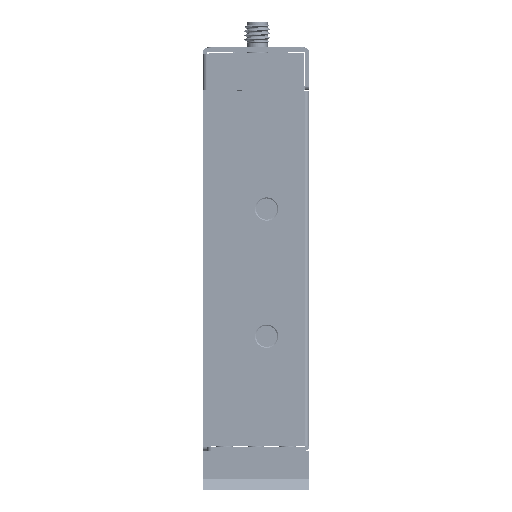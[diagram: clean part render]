
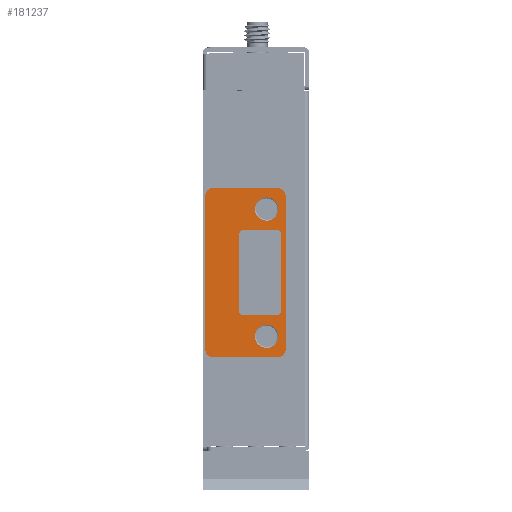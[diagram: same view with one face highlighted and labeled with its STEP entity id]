
A CAD part, front view. The second image highlights one B-rep face of the part: STEP entity #181237.
In plain terms, the highlighted planar face has unit normal (0, -1, 0) as drawn and (0, 0, 1) by its records, which use the part's own axes.
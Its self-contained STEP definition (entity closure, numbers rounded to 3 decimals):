
#3921 = CARTESIAN_POINT ( 'NONE',  ( 2., 17., 0.8 ) ) ;
#5923 = ORIENTED_EDGE ( 'NONE', *, *, #96800, .T. ) ;
#10271 = VERTEX_POINT ( 'NONE', #277974 ) ;
#12855 = VECTOR ( 'NONE', #503262, 1000. ) ;
#15751 = CARTESIAN_POINT ( 'NONE',  ( 2., 2., 0.8 ) ) ;
#21655 = EDGE_CURVE ( 'NONE', #241519, #412708, #91879, .T. ) ;
#30548 = CARTESIAN_POINT ( 'NONE',  ( 0., 17., 0.8 ) ) ;
#38473 = AXIS2_PLACEMENT_3D ( 'NONE', #109376, #221327, #762870 ) ;
#38564 = LINE ( 'NONE', #104321, #482618 ) ;
#42096 = EDGE_CURVE ( 'NONE', #348112, #49644, #753243, .T. ) ;
#42754 = LINE ( 'NONE', #561332, #12855 ) ;
#49644 = VERTEX_POINT ( 'NONE', #91690 ) ;
#63417 = CIRCLE ( 'NONE', #38473, 2.75 ) ;
#67040 = AXIS2_PLACEMENT_3D ( 'NONE', #236910, #643361, #167642 ) ;
#67352 = EDGE_CURVE ( 'NONE', #746354, #241519, #212280, .T. ) ;
#83272 = EDGE_CURVE ( 'NONE', #658382, #269282, #247924, .T. ) ;
#86596 = EDGE_LOOP ( 'NONE', ( #491093, #674388 ) ) ;
#91690 = CARTESIAN_POINT ( 'NONE',  ( 37.75, 14.5, 0.8 ) ) ;
#91879 = CIRCLE ( 'NONE', #67040, 2. ) ;
#96374 = CARTESIAN_POINT ( 'NONE',  ( 40., 2., 0.8 ) ) ;
#96800 = EDGE_CURVE ( 'NONE', #412708, #441033, #42754, .T. ) ;
#98884 = DIRECTION ( 'NONE',  ( 0., 0., 1. ) ) ;
#104321 = CARTESIAN_POINT ( 'NONE',  ( 2., 0., 0.8 ) ) ;
#109376 = CARTESIAN_POINT ( 'NONE',  ( 5., 14.5, 0.8 ) ) ;
#111841 = CARTESIAN_POINT ( 'NONE',  ( 2., 2., 0.8 ) ) ;
#132068 = CARTESIAN_POINT ( 'NONE',  ( 32.25, 14.5, 0.8 ) ) ;
#136362 = EDGE_CURVE ( 'NONE', #190174, #302767, #473957, .T. ) ;
#163789 = EDGE_CURVE ( 'NONE', #49644, #348112, #628808, .T. ) ;
#167642 = DIRECTION ( 'NONE',  ( -1., 0., 0. ) ) ;
#181237 = ADVANCED_FACE ( 'NONE', ( #757651, #227596, #699724 ), #289447, .F. ) ;
#181654 = CIRCLE ( 'NONE', #230584, 2. ) ;
#186987 = CARTESIAN_POINT ( 'NONE',  ( 38., 19., 0.8 ) ) ;
#190174 = VERTEX_POINT ( 'NONE', #728880 ) ;
#212280 = LINE ( 'NONE', #96374, #708842 ) ;
#219896 = ORIENTED_EDGE ( 'NONE', *, *, #163789, .F. ) ;
#221327 = DIRECTION ( 'NONE',  ( 0., 0., 1. ) ) ;
#221964 = CARTESIAN_POINT ( 'NONE',  ( 0., 2., 0.8 ) ) ;
#224791 = DIRECTION ( 'NONE',  ( 1., 0., 0. ) ) ;
#227596 = FACE_BOUND ( 'NONE', #258503, .T. ) ;
#228417 = AXIS2_PLACEMENT_3D ( 'NONE', #111841, #347586, #583675 ) ;
#230584 = AXIS2_PLACEMENT_3D ( 'NONE', #391445, #638857, #224791 ) ;
#236146 = ORIENTED_EDGE ( 'NONE', *, *, #456396, .T. ) ;
#236910 = CARTESIAN_POINT ( 'NONE',  ( 38., 17., 0.8 ) ) ;
#239259 = AXIS2_PLACEMENT_3D ( 'NONE', #3921, #475790, #247341 ) ;
#241519 = VERTEX_POINT ( 'NONE', #673093 ) ;
#247341 = DIRECTION ( 'NONE',  ( -1., 0., 0. ) ) ;
#247924 = CIRCLE ( 'NONE', #272168, 2.75 ) ;
#252842 = DIRECTION ( 'NONE',  ( 1., 0., 0. ) ) ;
#258252 = EDGE_CURVE ( 'NONE', #269282, #658382, #63417, .T. ) ;
#258503 = EDGE_LOOP ( 'NONE', ( #219896, #328083 ) ) ;
#258637 = CARTESIAN_POINT ( 'NONE',  ( 7.75, 14.5, 0.8 ) ) ;
#269282 = VERTEX_POINT ( 'NONE', #565715 ) ;
#272168 = AXIS2_PLACEMENT_3D ( 'NONE', #736361, #380574, #252842 ) ;
#277974 = CARTESIAN_POINT ( 'NONE',  ( 38., 0., 0.8 ) ) ;
#289447 = PLANE ( 'NONE',  #228417 ) ;
#300011 = ORIENTED_EDGE ( 'NONE', *, *, #750407, .T. ) ;
#302767 = VERTEX_POINT ( 'NONE', #755679 ) ;
#317174 = DIRECTION ( 'NONE',  ( 0., 0., 1. ) ) ;
#328083 = ORIENTED_EDGE ( 'NONE', *, *, #42096, .F. ) ;
#330309 = VERTEX_POINT ( 'NONE', #30548 ) ;
#343925 = CARTESIAN_POINT ( 'NONE',  ( 2., 19., 0.8 ) ) ;
#347586 = DIRECTION ( 'NONE',  ( 0., 0., -1. ) ) ;
#348112 = VERTEX_POINT ( 'NONE', #132068 ) ;
#380574 = DIRECTION ( 'NONE',  ( 0., 0., 1. ) ) ;
#382430 = DIRECTION ( 'NONE',  ( 1., 0., 0. ) ) ;
#391445 = CARTESIAN_POINT ( 'NONE',  ( 38., 2., 0.8 ) ) ;
#396698 = DIRECTION ( 'NONE',  ( 1., 0., 0. ) ) ;
#400094 = DIRECTION ( 'NONE',  ( 0., -1., 0. ) ) ;
#405154 = EDGE_CURVE ( 'NONE', #302767, #10271, #38564, .T. ) ;
#412708 = VERTEX_POINT ( 'NONE', #186987 ) ;
#418735 = ORIENTED_EDGE ( 'NONE', *, *, #694926, .T. ) ;
#437386 = ORIENTED_EDGE ( 'NONE', *, *, #136362, .T. ) ;
#441033 = VERTEX_POINT ( 'NONE', #343925 ) ;
#456396 = EDGE_CURVE ( 'NONE', #330309, #190174, #516102, .T. ) ;
#473957 = CIRCLE ( 'NONE', #621919, 2. ) ;
#475790 = DIRECTION ( 'NONE',  ( 0., 0., 1. ) ) ;
#482618 = VECTOR ( 'NONE', #622778, 1000. ) ;
#491093 = ORIENTED_EDGE ( 'NONE', *, *, #83272, .F. ) ;
#498743 = DIRECTION ( 'NONE',  ( 0., 1., 0. ) ) ;
#503262 = DIRECTION ( 'NONE',  ( -1., 0., 0. ) ) ;
#511266 = ORIENTED_EDGE ( 'NONE', *, *, #21655, .T. ) ;
#516102 = LINE ( 'NONE', #221964, #587104 ) ;
#520319 = CARTESIAN_POINT ( 'NONE',  ( 35., 14.5, 0.8 ) ) ;
#537140 = EDGE_LOOP ( 'NONE', ( #437386, #615601, #418735, #595789, #511266, #5923, #300011, #236146 ) ) ;
#558276 = CARTESIAN_POINT ( 'NONE',  ( 40., 2., 0.8 ) ) ;
#561332 = CARTESIAN_POINT ( 'NONE',  ( 2., 19., 0.8 ) ) ;
#565715 = CARTESIAN_POINT ( 'NONE',  ( 2.25, 14.5, 0.8 ) ) ;
#578439 = DIRECTION ( 'NONE',  ( 0., 0., 1. ) ) ;
#583675 = DIRECTION ( 'NONE',  ( 0., -1., 0. ) ) ;
#587104 = VECTOR ( 'NONE', #400094, 1000. ) ;
#595789 = ORIENTED_EDGE ( 'NONE', *, *, #67352, .T. ) ;
#615601 = ORIENTED_EDGE ( 'NONE', *, *, #405154, .T. ) ;
#621919 = AXIS2_PLACEMENT_3D ( 'NONE', #15751, #317174, #658085 ) ;
#622778 = DIRECTION ( 'NONE',  ( 1., 0., 0. ) ) ;
#628808 = CIRCLE ( 'NONE', #653765, 2.75 ) ;
#638857 = DIRECTION ( 'NONE',  ( 0., 0., 1. ) ) ;
#643361 = DIRECTION ( 'NONE',  ( 0., 0., 1. ) ) ;
#653765 = AXIS2_PLACEMENT_3D ( 'NONE', #520319, #578439, #382430 ) ;
#658085 = DIRECTION ( 'NONE',  ( -1., 0., 0. ) ) ;
#658382 = VERTEX_POINT ( 'NONE', #258637 ) ;
#666700 = AXIS2_PLACEMENT_3D ( 'NONE', #756245, #98884, #396698 ) ;
#673093 = CARTESIAN_POINT ( 'NONE',  ( 40., 17., 0.8 ) ) ;
#674388 = ORIENTED_EDGE ( 'NONE', *, *, #258252, .F. ) ;
#694926 = EDGE_CURVE ( 'NONE', #10271, #746354, #181654, .T. ) ;
#699724 = FACE_OUTER_BOUND ( 'NONE', #537140, .T. ) ;
#708842 = VECTOR ( 'NONE', #498743, 1000. ) ;
#728880 = CARTESIAN_POINT ( 'NONE',  ( 0., 2., 0.8 ) ) ;
#736361 = CARTESIAN_POINT ( 'NONE',  ( 5., 14.5, 0.8 ) ) ;
#745722 = CIRCLE ( 'NONE', #239259, 2. ) ;
#746354 = VERTEX_POINT ( 'NONE', #558276 ) ;
#750407 = EDGE_CURVE ( 'NONE', #441033, #330309, #745722, .T. ) ;
#753243 = CIRCLE ( 'NONE', #666700, 2.75 ) ;
#755679 = CARTESIAN_POINT ( 'NONE',  ( 2., 0., 0.8 ) ) ;
#756245 = CARTESIAN_POINT ( 'NONE',  ( 35., 14.5, 0.8 ) ) ;
#757651 = FACE_BOUND ( 'NONE', #86596, .T. ) ;
#762870 = DIRECTION ( 'NONE',  ( 1., 0., 0. ) ) ;
